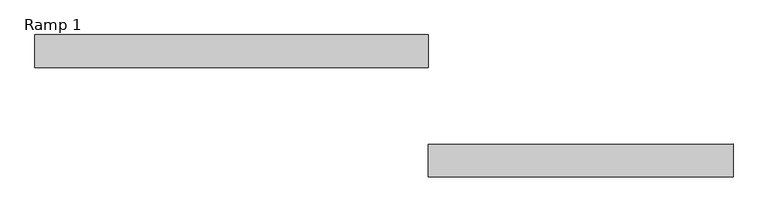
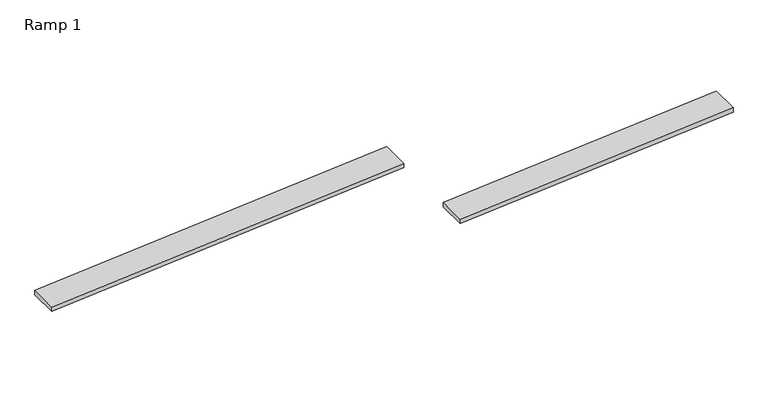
"""IFC4 building model written with IfcOpenShell, lengths in millimetres: ramp geometry, Ramp 1."""

from ifc_helpers import new_model, si_unit, frame, origin, place, context, project, spatial, polyline, outline, extrude, source, transform, mapped, element, save


def ramp_1_0e3f6d6b(model_context):
    return source(origin(), model_context, "Body", "SweptSolid", [
        extrude(outline(polyline([(1000.0, 14045.9938283), (0.0, 2045.9938283), (-150.5199322, 2045.9938283), (849.4800678, 14045.9938283), (1000.0, 14045.9938283)])), frame((0.0, 11914.6420399, 0.0), z_axis=(0.0, 1.0, 0.0), x_axis=(0.0, 0.0, 1.0)), (0.0, 0.0, 1.0), 1000.0),
        extrude(outline(polyline([(1775.0, 23345.9938283), (1000.0, 14045.9938283), (849.4800678, 14045.9938283), (1624.4800678, 23345.9938283), (1775.0, 23345.9938283)])), frame((0.0, 8571.2961921, 0.0), z_axis=(0.0, 1.0, 0.0), x_axis=(0.0, 0.0, 1.0)), (0.0, 0.0, 1.0), 1000.0),
    ])


if __name__ == "__main__":
    model = new_model("IFC4")
    model_context = context("Model", 3, world=origin())
    ifc_project = project(units=[si_unit("LENGTHUNIT", "METRE", prefix="MILLI")], contexts=[model_context])
    site = spatial("IfcSite", under=ifc_project)
    building = spatial("IfcBuilding", under=site)
    placement = place(None, origin())
    ramp_1_shape = ramp_1_0e3f6d6b(model_context)
    element("IfcRamp", 1, ObjectType="Ramp 1", at=placement, inside=building, context=model_context, shape_type="MappedRepresentation", body=[
        mapped(ramp_1_shape, transform((0.0, 0.0, 0.0), x_axis=(1.0, 0.0, 0.0), y_axis=(0.0, 1.0, 0.0), z_axis=(0.0, 0.0, 1.0))),
    ])
    save(model, "model.ifc")
